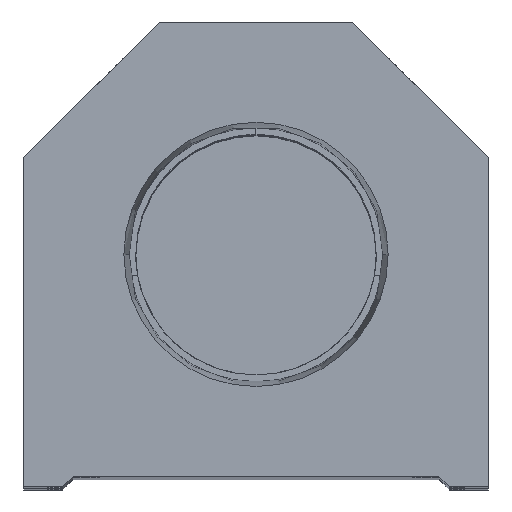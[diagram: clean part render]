
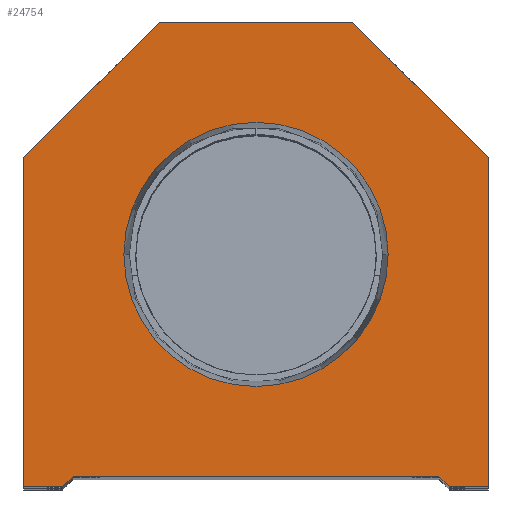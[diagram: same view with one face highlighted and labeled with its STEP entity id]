
A CAD part, top view. The second image highlights one B-rep face of the part: STEP entity #24754.
In plain terms, the highlighted planar face has unit normal (0, 0, 1).
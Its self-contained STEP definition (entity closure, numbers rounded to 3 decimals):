
#489 = CARTESIAN_POINT ( 'NONE',  ( 17.5, 1., 0. ) ) ;
#500 = DIRECTION ( 'NONE',  ( 1., 0., 0. ) ) ;
#501 = EDGE_LOOP ( 'NONE', ( #3239, #15102 ) ) ;
#679 = DIRECTION ( 'NONE',  ( 0., 1., 0. ) ) ;
#787 = CARTESIAN_POINT ( 'NONE',  ( 22.25, 0., 0. ) ) ;
#832 = VECTOR ( 'NONE', #22362, 1000. ) ;
#1015 = ORIENTED_EDGE ( 'NONE', *, *, #20685, .T. ) ;
#1142 = EDGE_CURVE ( 'NONE', #10759, #7108, #10261, .T. ) ;
#1401 = VERTEX_POINT ( 'NONE', #26060 ) ;
#1544 = CARTESIAN_POINT ( 'NONE',  ( -17.5, 1., 0. ) ) ;
#1642 = CARTESIAN_POINT ( 'NONE',  ( -22.25, 31.5, 0. ) ) ;
#1675 = CARTESIAN_POINT ( 'NONE',  ( -17.5, 0., 0. ) ) ;
#1727 = EDGE_CURVE ( 'NONE', #16485, #11812, #16045, .T. ) ;
#2071 = EDGE_CURVE ( 'NONE', #7108, #4769, #12828, .T. ) ;
#2651 = CARTESIAN_POINT ( 'NONE',  ( 22.25, 31.5, 0. ) ) ;
#3239 = ORIENTED_EDGE ( 'NONE', *, *, #12918, .F. ) ;
#3769 = DIRECTION ( 'NONE',  ( 0.707, -0.707, 0. ) ) ;
#4769 = VERTEX_POINT ( 'NONE', #2651 ) ;
#4900 = EDGE_LOOP ( 'NONE', ( #18316, #4958, #22080, #12402, #20593, #5686, #14869, #14486, #12555, #1015 ) ) ;
#4921 = CARTESIAN_POINT ( 'NONE',  ( -17.5, 1., 0. ) ) ;
#4958 = ORIENTED_EDGE ( 'NONE', *, *, #11231, .T. ) ;
#5079 = VERTEX_POINT ( 'NONE', #25763 ) ;
#5288 = AXIS2_PLACEMENT_3D ( 'NONE', #11537, #19645, #9785 ) ;
#5686 = ORIENTED_EDGE ( 'NONE', *, *, #2071, .T. ) ;
#5860 = DIRECTION ( 'NONE',  ( 1., 0., 0. ) ) ;
#6235 = CARTESIAN_POINT ( 'NONE',  ( -22.25, 31.5, 0. ) ) ;
#6320 = LINE ( 'NONE', #1675, #18011 ) ;
#6372 = PLANE ( 'NONE',  #17716 ) ;
#6395 = DIRECTION ( 'NONE',  ( 0., -1., 0. ) ) ;
#6766 = VECTOR ( 'NONE', #6395, 1000. ) ;
#7108 = VERTEX_POINT ( 'NONE', #787 ) ;
#7617 = VECTOR ( 'NONE', #5860, 1000. ) ;
#7762 = LINE ( 'NONE', #18049, #19758 ) ;
#8149 = EDGE_CURVE ( 'NONE', #11812, #23319, #16246, .T. ) ;
#8188 = DIRECTION ( 'NONE',  ( -1., 0., 0. ) ) ;
#8280 = VECTOR ( 'NONE', #17095, 1000. ) ;
#8791 = LINE ( 'NONE', #23282, #16493 ) ;
#8851 = LINE ( 'NONE', #16968, #8280 ) ;
#9373 = CARTESIAN_POINT ( 'NONE',  ( 18.5, 0., 0. ) ) ;
#9619 = CARTESIAN_POINT ( 'NONE',  ( 0., 22.25, 0. ) ) ;
#9785 = DIRECTION ( 'NONE',  ( 1., 0., 0. ) ) ;
#10261 = LINE ( 'NONE', #24499, #7617 ) ;
#10759 = VERTEX_POINT ( 'NONE', #9373 ) ;
#10767 = CARTESIAN_POINT ( 'NONE',  ( -12.647, 22.25, 0. ) ) ;
#11223 = CARTESIAN_POINT ( 'NONE',  ( -9.25, 44.5, 0. ) ) ;
#11231 = EDGE_CURVE ( 'NONE', #24747, #18603, #8791, .T. ) ;
#11241 = CARTESIAN_POINT ( 'NONE',  ( 9.25, 44.5, 0. ) ) ;
#11537 = CARTESIAN_POINT ( 'NONE',  ( 0., 22.25, 0. ) ) ;
#11812 = VERTEX_POINT ( 'NONE', #11223 ) ;
#11827 = DIRECTION ( 'NONE',  ( 1., 0., 0. ) ) ;
#11858 = EDGE_CURVE ( 'NONE', #5079, #24747, #6320, .T. ) ;
#12215 = DIRECTION ( 'NONE',  ( 1., 0., 0. ) ) ;
#12402 = ORIENTED_EDGE ( 'NONE', *, *, #17341, .T. ) ;
#12418 = LINE ( 'NONE', #12559, #6766 ) ;
#12555 = ORIENTED_EDGE ( 'NONE', *, *, #8149, .T. ) ;
#12559 = CARTESIAN_POINT ( 'NONE',  ( -22.25, 0., 0. ) ) ;
#12661 = FACE_OUTER_BOUND ( 'NONE', #4900, .T. ) ;
#12828 = LINE ( 'NONE', #16942, #17639 ) ;
#12918 = EDGE_CURVE ( 'NONE', #1401, #22167, #12968, .T. ) ;
#12968 = CIRCLE ( 'NONE', #5288, 12.647 ) ;
#13140 = EDGE_CURVE ( 'NONE', #4769, #16485, #8851, .T. ) ;
#13608 = DIRECTION ( 'NONE',  ( 0., 0., 1. ) ) ;
#13926 = LINE ( 'NONE', #1544, #14784 ) ;
#14486 = ORIENTED_EDGE ( 'NONE', *, *, #1727, .T. ) ;
#14784 = VECTOR ( 'NONE', #11827, 1000. ) ;
#14869 = ORIENTED_EDGE ( 'NONE', *, *, #13140, .T. ) ;
#15102 = ORIENTED_EDGE ( 'NONE', *, *, #20457, .F. ) ;
#15295 = CIRCLE ( 'NONE', #18726, 12.647 ) ;
#16045 = LINE ( 'NONE', #24286, #24173 ) ;
#16246 = LINE ( 'NONE', #6235, #832 ) ;
#16485 = VERTEX_POINT ( 'NONE', #11241 ) ;
#16493 = VECTOR ( 'NONE', #21284, 1000. ) ;
#16942 = CARTESIAN_POINT ( 'NONE',  ( 22.25, 0., 0. ) ) ;
#16968 = CARTESIAN_POINT ( 'NONE',  ( 22.25, 31.5, 0. ) ) ;
#17015 = VERTEX_POINT ( 'NONE', #489 ) ;
#17095 = DIRECTION ( 'NONE',  ( -0.707, 0.707, 0. ) ) ;
#17341 = EDGE_CURVE ( 'NONE', #17015, #10759, #7762, .T. ) ;
#17346 = DIRECTION ( 'NONE',  ( 1., 0., 0. ) ) ;
#17639 = VECTOR ( 'NONE', #679, 1000. ) ;
#17716 = AXIS2_PLACEMENT_3D ( 'NONE', #20651, #18782, #500 ) ;
#18011 = VECTOR ( 'NONE', #12215, 1000. ) ;
#18049 = CARTESIAN_POINT ( 'NONE',  ( 9.25, 9.25, 0. ) ) ;
#18316 = ORIENTED_EDGE ( 'NONE', *, *, #11858, .T. ) ;
#18603 = VERTEX_POINT ( 'NONE', #4921 ) ;
#18726 = AXIS2_PLACEMENT_3D ( 'NONE', #9619, #13608, #17346 ) ;
#18782 = DIRECTION ( 'NONE',  ( 0., 0., 1. ) ) ;
#19645 = DIRECTION ( 'NONE',  ( 0., 0., 1. ) ) ;
#19758 = VECTOR ( 'NONE', #3769, 1000. ) ;
#20457 = EDGE_CURVE ( 'NONE', #22167, #1401, #15295, .T. ) ;
#20593 = ORIENTED_EDGE ( 'NONE', *, *, #1142, .T. ) ;
#20651 = CARTESIAN_POINT ( 'NONE',  ( 0., 0., 0. ) ) ;
#20685 = EDGE_CURVE ( 'NONE', #23319, #5079, #12418, .T. ) ;
#21284 = DIRECTION ( 'NONE',  ( 0.707, 0.707, 0. ) ) ;
#22080 = ORIENTED_EDGE ( 'NONE', *, *, #26279, .T. ) ;
#22167 = VERTEX_POINT ( 'NONE', #10767 ) ;
#22362 = DIRECTION ( 'NONE',  ( -0.707, -0.707, 0. ) ) ;
#22495 = CARTESIAN_POINT ( 'NONE',  ( -18.5, 0., 0. ) ) ;
#23282 = CARTESIAN_POINT ( 'NONE',  ( -9.25, 9.25, 0. ) ) ;
#23319 = VERTEX_POINT ( 'NONE', #1642 ) ;
#24173 = VECTOR ( 'NONE', #8188, 1000. ) ;
#24286 = CARTESIAN_POINT ( 'NONE',  ( 9.25, 44.5, 0. ) ) ;
#24491 = FACE_BOUND ( 'NONE', #501, .T. ) ;
#24499 = CARTESIAN_POINT ( 'NONE',  ( 17.5, 0., 0. ) ) ;
#24747 = VERTEX_POINT ( 'NONE', #22495 ) ;
#24754 = ADVANCED_FACE ( 'NONE', ( #24491, #12661 ), #6372, .T. ) ;
#25763 = CARTESIAN_POINT ( 'NONE',  ( -22.25, 0., 0. ) ) ;
#26060 = CARTESIAN_POINT ( 'NONE',  ( 12.647, 22.25, 0. ) ) ;
#26279 = EDGE_CURVE ( 'NONE', #18603, #17015, #13926, .T. ) ;
